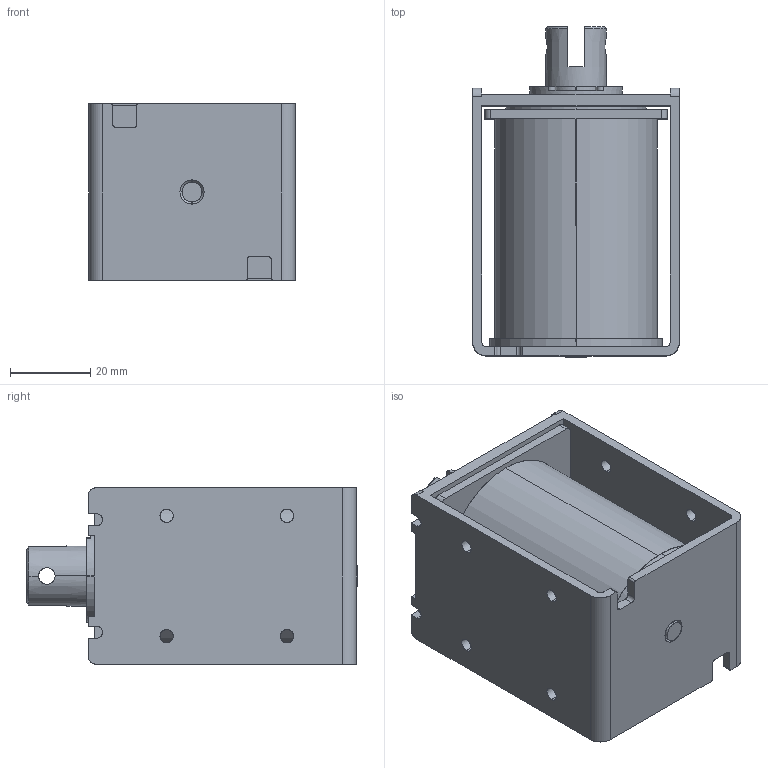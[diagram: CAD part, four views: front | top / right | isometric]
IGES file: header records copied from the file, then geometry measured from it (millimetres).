
Start section: SolidWorks IGES file using analytic representation for surfaces
Global section: file name: L:\カタログ\web用3Dデータ\CA1567\3D_CA1567\w_ca1567.IGS; native system: SolidWorks 2014; preprocessor: SolidWorks 2014; author: jiba; date: 140714.131744; units: millimetre
Bounding box: 51.5 x 82.35 x 44 mm (x, y, z)
Surface area: 43783.5 mm2 (no closed solid volume)
Topology: 0 solids, 0 shells, 182 faces, 3243 edges, 3243 vertices
Faces by surface type: revolution 92, bspline 90
